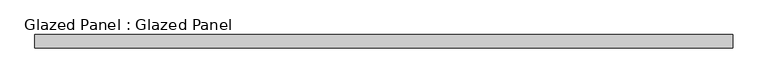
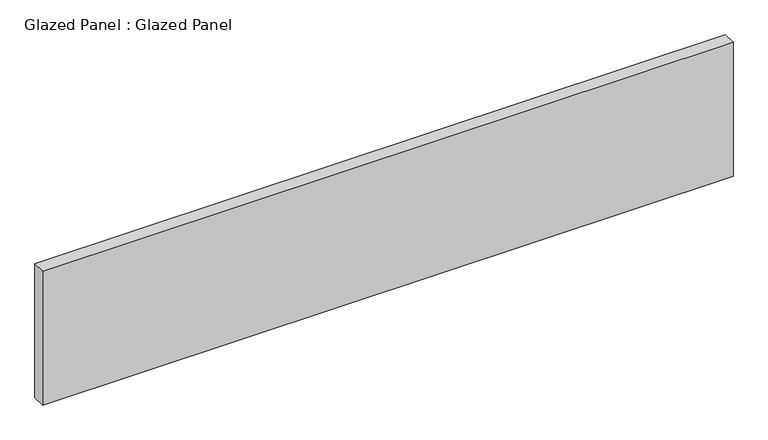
"""IFC4 building model written with IfcOpenShell, lengths in millimetres: plate geometry, Glazed Panel : Glazed Panel."""

from ifc_helpers import new_model, si_unit, origin, origin_with_axes, place, context, project, spatial, polyline, outline, extrude, source, transform, mapped, element, save


def glazed_panel_glazed_panel_74581ffd(model_context):
    return source(origin(), model_context, "Body", "SweptSolid", [
        extrude(outline(polyline([(665.95625, 38.1), (-665.95625, 38.1), (-665.95625, 63.5), (665.95625, 63.5), (665.95625, 38.1)])), origin_with_axes(), (0.0, 0.0, 1.0), 273.05),
    ])


if __name__ == "__main__":
    model = new_model("IFC4")
    model_context = context("Model", 3, world=origin())
    ifc_project = project(units=[si_unit("LENGTHUNIT", "METRE", prefix="MILLI")], contexts=[model_context])
    site = spatial("IfcSite", under=ifc_project)
    building = spatial("IfcBuilding", under=site)
    placement = place(None, origin())
    glazed_panel_glazed_panel_shape = glazed_panel_glazed_panel_74581ffd(model_context)
    element("IfcPlate", 1, ObjectType="Glazed Panel : Glazed Panel", at=placement, inside=building, context=model_context, shape_type="MappedRepresentation", body=[
        mapped(glazed_panel_glazed_panel_shape, transform((0.0, 0.0, 0.0), x_axis=(1.0, 0.0, 0.0), y_axis=(0.0, 1.0, 0.0), z_axis=(0.0, 0.0, 1.0))),
    ])
    save(model, "model.ifc")
